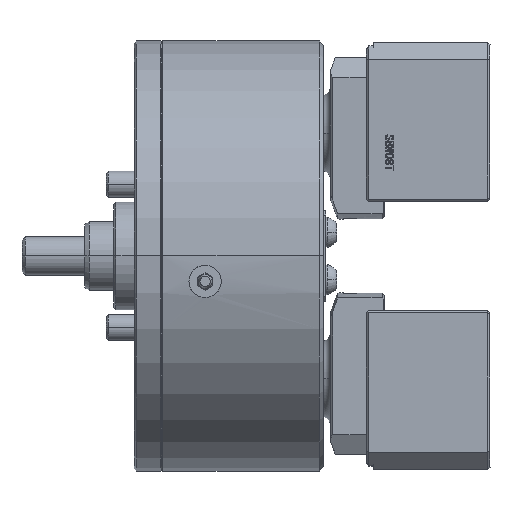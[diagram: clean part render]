
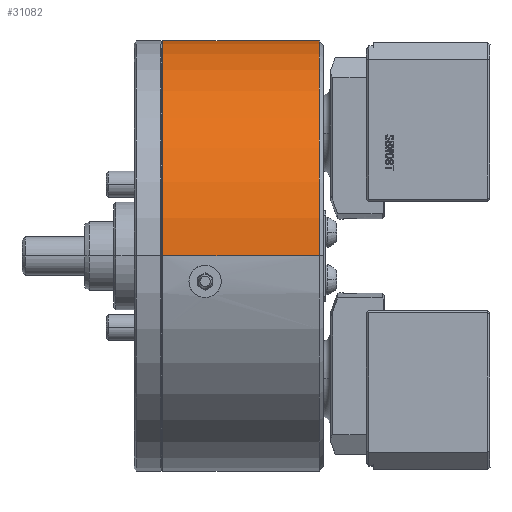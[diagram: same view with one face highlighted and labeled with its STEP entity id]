
A CAD part, top view. The second image highlights one B-rep face of the part: STEP entity #31082.
In plain terms, the highlighted cylindrical face has radius 100 mm (diameter 200 mm), a partial arc.
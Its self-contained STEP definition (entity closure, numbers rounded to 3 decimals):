
#1713 = VERTEX_POINT ( 'NONE', #29635 ) ;
#2345 = EDGE_CURVE ( 'NONE', #1713, #8531, #47859, .T. ) ;
#3088 = CYLINDRICAL_SURFACE ( 'NONE', #23645, 100. ) ;
#8531 = VERTEX_POINT ( 'NONE', #47780 ) ;
#8884 = DIRECTION ( 'NONE',  ( 1., 0., 0. ) ) ;
#10559 = VECTOR ( 'NONE', #42607, 1000. ) ;
#11241 = EDGE_CURVE ( 'NONE', #49244, #8531, #33702, .T. ) ;
#15126 = DIRECTION ( 'NONE',  ( 0., 0., -1. ) ) ;
#15615 = VECTOR ( 'NONE', #30575, 1000. ) ;
#22205 = DIRECTION ( 'NONE',  ( 1., 0., 0. ) ) ;
#22598 = VERTEX_POINT ( 'NONE', #24431 ) ;
#22756 = CIRCLE ( 'NONE', #27411, 100. ) ;
#23645 = AXIS2_PLACEMENT_3D ( 'NONE', #29581, #8884, #45795 ) ;
#24048 = EDGE_CURVE ( 'NONE', #22598, #49244, #41817, .T. ) ;
#24431 = CARTESIAN_POINT ( 'NONE',  ( -74.6, 0., -100. ) ) ;
#24975 = ORIENTED_EDGE ( 'NONE', *, *, #2345, .T. ) ;
#25369 = ORIENTED_EDGE ( 'NONE', *, *, #11241, .F. ) ;
#27411 = AXIS2_PLACEMENT_3D ( 'NONE', #42609, #48161, #15126 ) ;
#29581 = CARTESIAN_POINT ( 'NONE',  ( 9.899, 0., 0. ) ) ;
#29635 = CARTESIAN_POINT ( 'NONE',  ( -74.6, 0., 100. ) ) ;
#30575 = DIRECTION ( 'NONE',  ( 1., 0., 0. ) ) ;
#30764 = ORIENTED_EDGE ( 'NONE', *, *, #32878, .T. ) ;
#31082 = ADVANCED_FACE ( 'NONE', ( #35666 ), #3088, .T. ) ;
#32440 = DIRECTION ( 'NONE',  ( 0., 0., -1. ) ) ;
#32878 = EDGE_CURVE ( 'NONE', #22598, #1713, #22756, .T. ) ;
#33536 = AXIS2_PLACEMENT_3D ( 'NONE', #48288, #22205, #32440 ) ;
#33702 = CIRCLE ( 'NONE', #33536, 100. ) ;
#35666 = FACE_OUTER_BOUND ( 'NONE', #47868, .T. ) ;
#41222 = ORIENTED_EDGE ( 'NONE', *, *, #24048, .F. ) ;
#41817 = LINE ( 'NONE', #45385, #10559 ) ;
#42607 = DIRECTION ( 'NONE',  ( 1., 0., 0. ) ) ;
#42609 = CARTESIAN_POINT ( 'NONE',  ( -74.6, 0., 0. ) ) ;
#45385 = CARTESIAN_POINT ( 'NONE',  ( 9.899, 0., -100. ) ) ;
#45795 = DIRECTION ( 'NONE',  ( 0., 0., -1. ) ) ;
#46766 = CARTESIAN_POINT ( 'NONE',  ( -2., 0., -100. ) ) ;
#47780 = CARTESIAN_POINT ( 'NONE',  ( -2., 0., 100. ) ) ;
#47859 = LINE ( 'NONE', #49504, #15615 ) ;
#47868 = EDGE_LOOP ( 'NONE', ( #30764, #24975, #25369, #41222 ) ) ;
#48161 = DIRECTION ( 'NONE',  ( 1., 0., 0. ) ) ;
#48288 = CARTESIAN_POINT ( 'NONE',  ( -2., 0., 0. ) ) ;
#49244 = VERTEX_POINT ( 'NONE', #46766 ) ;
#49504 = CARTESIAN_POINT ( 'NONE',  ( 9.899, 0., 100. ) ) ;
